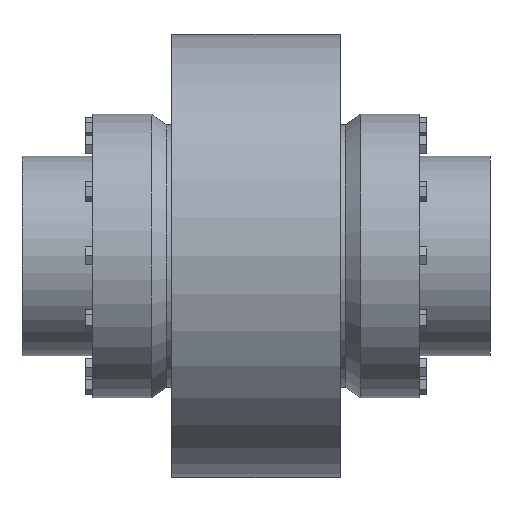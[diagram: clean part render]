
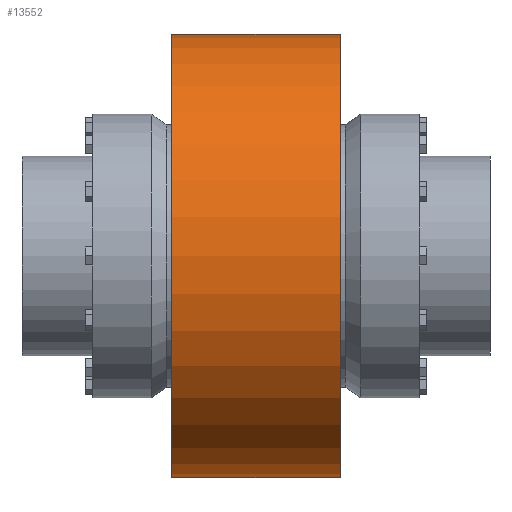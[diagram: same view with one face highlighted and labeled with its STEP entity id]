
A CAD part, top view. The second image highlights one B-rep face of the part: STEP entity #13552.
In plain terms, the highlighted cylindrical face has radius 125 mm (diameter 250 mm), a partial arc.
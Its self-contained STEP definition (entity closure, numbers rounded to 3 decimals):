
#13304=CARTESIAN_POINT('',(47.5,0.,0.));
#13305=DIRECTION('',(1.,0.,0.));
#13306=DIRECTION('',(0.,1.,0.));
#13307=AXIS2_PLACEMENT_3D('',#13304,#13305,#13306);
#13309=DIRECTION('',(-1.,0.,0.));
#13310=VECTOR('',#13309,95.);
#13311=CARTESIAN_POINT('',(47.5,125.,0.));
#13312=LINE('',#13311,#13310);
#13313=DIRECTION('',(-1.,0.,0.));
#13314=VECTOR('',#13313,95.);
#13315=CARTESIAN_POINT('',(47.5,-125.,0.));
#13316=LINE('',#13315,#13314);
#13327=CARTESIAN_POINT('',(-47.5,0.,0.));
#13328=DIRECTION('',(1.,0.,0.));
#13329=DIRECTION('',(0.,1.,0.));
#13330=AXIS2_PLACEMENT_3D('',#13327,#13328,#13329);
#13384=CARTESIAN_POINT('',(47.5,125.,0.));
#13385=CARTESIAN_POINT('',(-47.5,125.,0.));
#13386=VERTEX_POINT('',#13384);
#13387=VERTEX_POINT('',#13385);
#13392=CARTESIAN_POINT('',(47.5,-125.,0.));
#13393=CARTESIAN_POINT('',(-47.5,-125.,0.));
#13394=VERTEX_POINT('',#13392);
#13395=VERTEX_POINT('',#13393);
#13538=CARTESIAN_POINT('',(-52.25,0.,0.));
#13539=DIRECTION('',(1.,0.,0.));
#13540=DIRECTION('',(0.,-1.,0.));
#13541=AXIS2_PLACEMENT_3D('',#13538,#13539,#13540);
#13542=CYLINDRICAL_SURFACE('',#13541,125.);
#13544=ORIENTED_EDGE('',*,*,#13543,.F.);
#13545=ORIENTED_EDGE('',*,*,#13527,.T.);
#13547=ORIENTED_EDGE('',*,*,#13546,.T.);
#13549=ORIENTED_EDGE('',*,*,#13548,.F.);
#13550=EDGE_LOOP('',(#13544,#13545,#13547,#13549));
#13551=FACE_OUTER_BOUND('',#13550,.F.);
#13552=ADVANCED_FACE('',(#13551),#13542,.T.);
#13308=CIRCLE('',#13307,125.);
#13331=CIRCLE('',#13330,125.);
#13527=EDGE_CURVE('',#13386,#13394,#13308,.T.);
#13543=EDGE_CURVE('',#13386,#13387,#13312,.T.);
#13546=EDGE_CURVE('',#13394,#13395,#13316,.T.);
#13548=EDGE_CURVE('',#13387,#13395,#13331,.T.);
